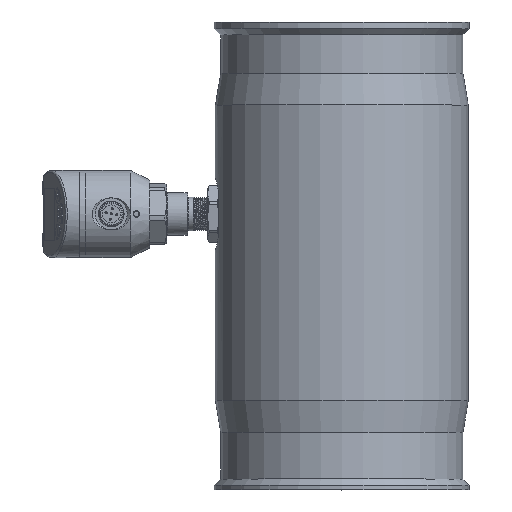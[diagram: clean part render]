
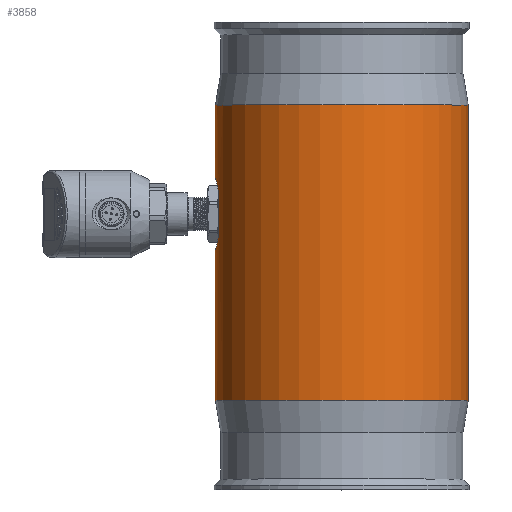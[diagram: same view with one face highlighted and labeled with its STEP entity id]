
A CAD part, top view. The second image highlights one B-rep face of the part: STEP entity #3858.
In plain terms, the highlighted cylindrical face has radius 59.5 mm (diameter 119 mm), a full revolution.
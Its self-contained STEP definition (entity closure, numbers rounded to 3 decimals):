
#399=LINE('',#15276,#869);
#400=LINE('',#15283,#870);
#869=VECTOR('',#11688,1.);
#870=VECTOR('',#11689,1.);
#2693=CYLINDRICAL_SURFACE('',#10478,59.5);
#3075=FACE_BOUND('',#4918,.T.);
#3076=FACE_BOUND('',#4919,.T.);
#3077=FACE_BOUND('',#4920,.T.);
#3371=CIRCLE('',#10475,59.5);
#3372=CIRCLE('',#10477,59.5);
#3858=ADVANCED_FACE('',(#3075,#3076,#3077),#2693,.T.);
#4918=EDGE_LOOP('',(#6084,#6085,#6086,#6087));
#4919=EDGE_LOOP('',(#6088));
#4920=EDGE_LOOP('',(#6089));
#6084=ORIENTED_EDGE('',*,*,#9050,.T.);
#6085=ORIENTED_EDGE('',*,*,#9027,.F.);
#6086=ORIENTED_EDGE('',*,*,#9051,.T.);
#6087=ORIENTED_EDGE('',*,*,#9029,.F.);
#6088=ORIENTED_EDGE('',*,*,#9053,.T.);
#6089=ORIENTED_EDGE('',*,*,#9052,.T.);
#8103=VERTEX_POINT('',#15274);
#8104=VERTEX_POINT('',#15275);
#8105=VERTEX_POINT('',#15277);
#8106=VERTEX_POINT('',#15282);
#8127=VERTEX_POINT('',#15469);
#8128=VERTEX_POINT('',#15472);
#9027=EDGE_CURVE('',#8104,#8105,#399,.T.);
#9029=EDGE_CURVE('',#8106,#8103,#400,.T.);
#9050=EDGE_CURVE('',#8106,#8105,#10067,.T.);
#9051=EDGE_CURVE('',#8104,#8103,#10068,.T.);
#9052=EDGE_CURVE('',#8127,#8127,#3371,.T.);
#9053=EDGE_CURVE('',#8128,#8128,#3372,.T.);
#10067=B_SPLINE_CURVE_WITH_KNOTS('',3,(#15344,#15345,#15346,#15347,#15348,
#15349,#15350,#15351,#15352,#15353),.UNSPECIFIED.,.F.,.F.,(4,2,2,2,4),(0.,
0.25,0.5,0.75,1.),.UNSPECIFIED.);
#10068=B_SPLINE_CURVE_WITH_KNOTS('',3,(#15406,#15407,#15408,#15409,#15410,
#15411,#15412,#15413,#15414,#15415),.UNSPECIFIED.,.F.,.F.,(4,2,2,2,4),(0.,
0.25,0.5,0.75,1.),.UNSPECIFIED.);
#10475=AXIS2_PLACEMENT_3D('',#15468,#11770,#11771);
#10477=AXIS2_PLACEMENT_3D('',#15471,#11774,#11775);
#10478=AXIS2_PLACEMENT_3D('',#15473,#11776,#11777);
#11688=DIRECTION('',(0.,1.,0.));
#11689=DIRECTION('',(0.,-1.,0.));
#11770=DIRECTION('',(0.,1.,0.));
#11771=DIRECTION('',(1.,0.,0.));
#11774=DIRECTION('',(0.,-1.,0.));
#11775=DIRECTION('',(-1.,0.,0.));
#11776=DIRECTION('',(0.,-1.,0.));
#11777=DIRECTION('',(-1.,0.,0.));
#15274=CARTESIAN_POINT('',(-57.9,-94.101,-13.705));
#15275=CARTESIAN_POINT('',(-57.9,-94.102,13.705));
#15276=CARTESIAN_POINT('',(-57.9,-97.973,13.705));
#15277=CARTESIAN_POINT('',(-57.9,-73.584,13.705));
#15282=CARTESIAN_POINT('',(-57.9,-73.583,-13.705));
#15283=CARTESIAN_POINT('',(-57.9,-1000.,-13.705));
#15344=CARTESIAN_POINT('',(-57.9,-73.583,-13.705));
#15345=CARTESIAN_POINT('',(-58.28,-71.489,-12.099));
#15346=CARTESIAN_POINT('',(-58.701,-69.792,-10.007));
#15347=CARTESIAN_POINT('',(-59.311,-67.484,-5.3));
#15348=CARTESIAN_POINT('',(-59.5,-66.869,-2.648));
#15349=CARTESIAN_POINT('',(-59.5,-66.867,2.63));
#15350=CARTESIAN_POINT('',(-59.315,-67.472,5.273));
#15351=CARTESIAN_POINT('',(-58.697,-69.804,10.036));
#15352=CARTESIAN_POINT('',(-58.277,-71.508,12.115));
#15353=CARTESIAN_POINT('',(-57.9,-73.584,13.705));
#15406=CARTESIAN_POINT('',(-57.9,-94.102,13.705));
#15407=CARTESIAN_POINT('',(-58.28,-96.193,12.101));
#15408=CARTESIAN_POINT('',(-58.699,-97.888,10.014));
#15409=CARTESIAN_POINT('',(-59.31,-100.195,5.308));
#15410=CARTESIAN_POINT('',(-59.5,-100.814,2.662));
#15411=CARTESIAN_POINT('',(-59.5,-100.818,-2.648));
#15412=CARTESIAN_POINT('',(-59.311,-100.201,-5.3));
#15413=CARTESIAN_POINT('',(-58.697,-97.878,-10.031));
#15414=CARTESIAN_POINT('',(-58.277,-96.173,-12.115));
#15415=CARTESIAN_POINT('',(-57.9,-94.101,-13.705));
#15468=CARTESIAN_POINT('',(0.,-171.6,0.));
#15469=CARTESIAN_POINT('',(59.5,-171.6,0.));
#15471=CARTESIAN_POINT('',(0.,-32.6,0.));
#15472=CARTESIAN_POINT('',(-59.5,-32.6,0.));
#15473=CARTESIAN_POINT('',(0.,-1000.,0.));
